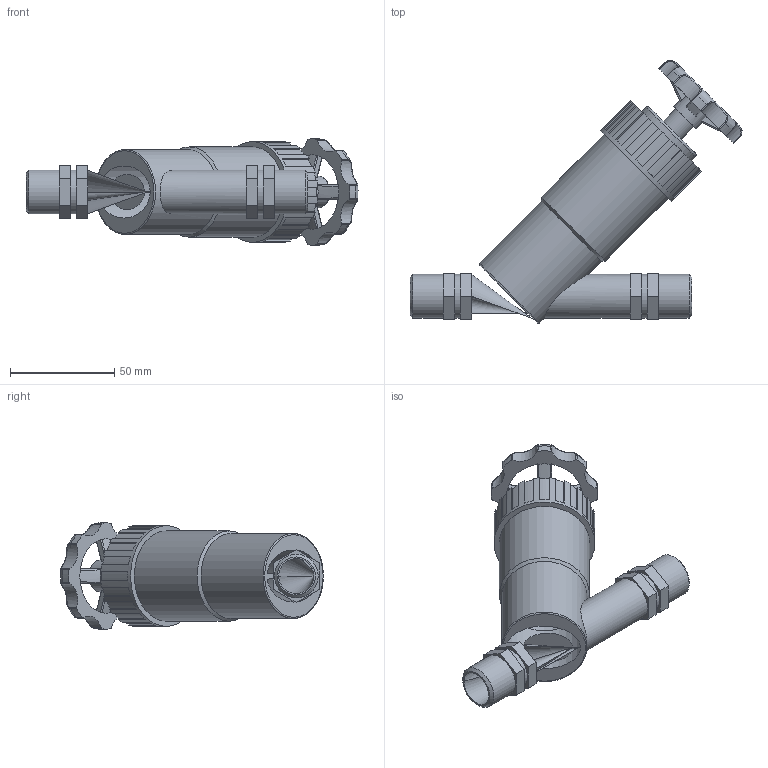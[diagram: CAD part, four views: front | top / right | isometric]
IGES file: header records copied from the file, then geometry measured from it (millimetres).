
Global section: file name: 03047055_030470550A_03049055.ipt; native system: Autodesk Inventor 2015; preprocessor: unknown; author: KIM; date: 20170619.121252; units: millimetre
Bounding box: 159.02 x 125.92 x 50.83 mm (x, y, z)
Volume: 3051.8 mm3; surface area: 37038.5 mm2
Topology: 1 solids, 4 shells, 221 faces, 595 edges, 385 vertices
Faces by surface type: plane 110, cylinder 57, bspline 25, revolution 22, cone 7
Full cylindrical faces by diameter (mm): 12.204 x1, 15.255 x1, 20.955 x6, 33.561 x1, 40.68 x1, 43.222 x1, 48.307 x1
